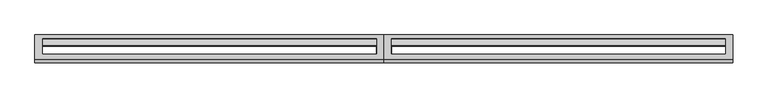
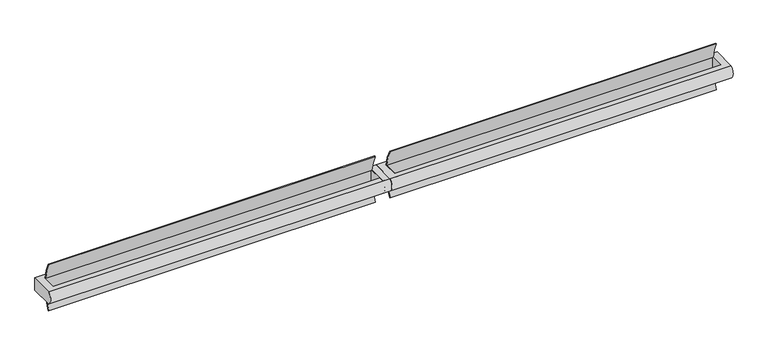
"""IFC4 building model written with IfcOpenShell, lengths in millimetres: light fixture geometry, soli continuum : soli continuum."""

from ifc_helpers import new_model, si_unit, point, frame, frame_2d, origin, place, context, project, spatial, polyline, circle_curve, trimmed, segment, composite_curve, outline, extrude, source, transform, mapped, element, save
from ifc_brep_helpers import plane_surface, cylinder_surface, advanced_brep


def light_fixture_3b4cde5a(model_context):
    return source(origin(), model_context, "Body", "SolidModel", [
        extrude(outline(composite_curve([segment(polyline([(13.643269, 1453.2258006), (16.4225311, 1454.7608339)]), True, "CONTINUOUS"), segment(trimmed(circle_curve(frame_2d((-135.8180328, 1370.6758006)), 173.9180328), [point((16.4225311, 1454.7608339))], [point((36.6740873, 1392.9008006))], False, "CARTESIAN"), True, "CONTINUOUS"), segment(polyline([(36.6740873, 1392.9008006), (33.4723468, 1392.9008006)]), True, "CONTINUOUS"), segment(trimmed(circle_curve(frame_2d((-135.8180328, 1370.6758006)), 170.7430328), [point((33.4723468, 1392.9008006))], [point((13.643269, 1453.2258006))], True, "CARTESIAN"), True, "CONTINUOUS")], self_intersect=False)), frame((55.1662262, 0.0, 0.0), z_axis=(1.0, 0.0, 0.0), x_axis=(0.0, 1.0, 0.0)), (0.0, 0.0, 1.0), 1117.6),
        extrude(outline(composite_curve([segment(polyline([(16.4225311, 1286.5907672), (13.643269, 1288.1258006)]), True, "CONTINUOUS"), segment(trimmed(circle_curve(frame_2d((-135.8180328, 1370.6758006)), 170.7430328), [point((13.643269, 1288.1258006))], [point((33.4723468, 1348.4508006))], True, "CARTESIAN"), True, "CONTINUOUS"), segment(polyline([(33.4723468, 1348.4508006), (36.6740873, 1348.4508006)]), True, "CONTINUOUS"), segment(trimmed(circle_curve(frame_2d((-135.8180328, 1370.6758006)), 173.9180328), [point((36.6740873, 1348.4508006))], [point((16.4225311, 1286.5907672))], False, "CARTESIAN"), True, "CONTINUOUS")], self_intersect=False)), frame((55.1662262, 0.0, 0.0), z_axis=(1.0, 0.0, 0.0), x_axis=(0.0, 1.0, 0.0)), (0.0, 0.0, 1.0), 1117.6),
        advanced_brep(
        [(1197.1075026, 50.8, 1348.4508006), (1197.1075026, 50.8, 1392.9008006), (1197.1075026, -30.48, 1392.9008006), (1197.1075026, -30.48, 1348.4508006), (28.7075026, 50.8, 1348.4508006), (28.7075026, -30.48, 1348.4508006), (28.7075026, -30.48, 1392.9008006), (28.7075026, 50.8, 1392.9008006), (55.1662262, 38.1, 1392.9008006), (1172.7662262, 38.1, 1392.9008006), (1172.7662262, -12.7, 1392.9008006), (55.1662262, -12.7, 1392.9008006), (1172.7662262, 38.1, 1348.4508006), (55.1662262, 38.1, 1348.4508006), (55.1662262, -12.7, 1348.4508006), (1172.7662262, -12.7, 1348.4508006)],
        [
            (0, 1),
            (1, 2),
            (2, 3, circle_curve(frame((1197.1075026, -17.383125, 1370.6758006), z_axis=(1.0, 0.0, 0.0), x_axis=(0.0, -1.0, 0.0)), 25.796875)),
            (3, 0),
            (4, 5),
            (5, 6, circle_curve(frame((28.7075026, -17.383125, 1370.6758006), z_axis=(-1.0, 0.0, 0.0), x_axis=(0.0, -1.0, 0.0)), 25.796875)),
            (6, 7),
            (7, 4),
            (0, 4),
            (7, 1),
            (6, 2),
            (8, 9),
            (9, 10),
            (10, 11),
            (11, 8),
            (5, 3),
            (12, 13),
            (13, 14),
            (14, 15),
            (15, 12),
            (8, 13),
            (12, 9),
            (11, 14),
            (10, 15),
        ],
        [
            plane_surface(frame((1197.1075026, 50.8, 1399.2508006), z_axis=(1.0, 0.0, 0.0), x_axis=(0.0, 0.0, 1.0))),
            plane_surface(frame((28.7075026, 50.8, 1399.2508006), z_axis=(-1.0, 0.0, 0.0), x_axis=(0.0, 0.0, -1.0))),
            plane_surface(frame((1197.1075026, 50.8, 1348.4508006), z_axis=(0.0, 1.0, 0.0), x_axis=(-1.0, 0.0, 0.0))),
            plane_surface(frame((1197.1075026, 50.8, 1392.9008006), z_axis=(0.0, 0.0, 1.0), x_axis=(-1.0, 0.0, 0.0))),
            cylinder_surface(frame((28.7075026, -17.383125, 1370.6758006), z_axis=(1.0, 0.0, 0.0), x_axis=(0.0, -1.0, 0.0)), 25.796875),
            plane_surface(frame((1197.1075026, -30.48, 1348.4508006), z_axis=(0.0, 0.0, -1.0), x_axis=(-1.0, 0.0, 0.0))),
            plane_surface(frame((1172.7662262, 38.1, 1392.9008006), z_axis=(0.0, -1.0, 0.0), x_axis=(0.0, 0.0, -1.0))),
            plane_surface(frame((55.1662262, 38.1, 1392.9008006), z_axis=(1.0, 0.0, 0.0), x_axis=(0.0, 0.0, -1.0))),
            plane_surface(frame((55.1662262, -12.7, 1392.9008006), z_axis=(0.0, 1.0, 0.0), x_axis=(0.0, 0.0, -1.0))),
            plane_surface(frame((1172.7662262, -12.7, 1392.9008006), z_axis=(-1.0, 0.0, 0.0), x_axis=(0.0, 0.0, -1.0))),
        ],
        [
            (0, [[1, 2, 3, 4]]),
            (1, [[5, 6, 7, 8]]),
            (2, [[-1, 9, -8, 10]]),
            (3, [[-2, -10, -7, 11], [12, 13, 14, 15]]),
            (4, [[-3, -11, -6, 16]]),
            (5, [[-4, -16, -5, -9], [17, 18, 19, 20]]),
            (6, [[21, -17, 22, -12]]),
            (7, [[-21, -15, 23, -18]]),
            (8, [[-23, -14, 24, -19]]),
            (9, [[-22, -20, -24, -13]]),
        ],
    ),
        extrude(outline(composite_curve([segment(polyline([(13.643269, 1453.2258006), (16.4225311, 1454.7608339)]), True, "CONTINUOUS"), segment(trimmed(circle_curve(frame_2d((-135.8180328, 1370.6758006)), 173.9180328), [point((16.4225311, 1454.7608339))], [point((36.6740873, 1392.9008006))], False, "CARTESIAN"), True, "CONTINUOUS"), segment(polyline([(36.6740873, 1392.9008006), (33.4723468, 1392.9008006)]), True, "CONTINUOUS"), segment(trimmed(circle_curve(frame_2d((-135.8180328, 1370.6758006)), 170.7430328), [point((33.4723468, 1392.9008006))], [point((13.643269, 1453.2258006))], True, "CARTESIAN"), True, "CONTINUOUS")], self_intersect=False)), frame((-1113.2337738, 0.0, 0.0), z_axis=(1.0, 0.0, 0.0), x_axis=(0.0, 1.0, 0.0)), (0.0, 0.0, 1.0), 1117.6),
        extrude(outline(composite_curve([segment(polyline([(16.4225311, 1286.5907672), (13.643269, 1288.1258006)]), True, "CONTINUOUS"), segment(trimmed(circle_curve(frame_2d((-135.8180328, 1370.6758006)), 170.7430328), [point((13.643269, 1288.1258006))], [point((33.4723468, 1348.4508006))], True, "CARTESIAN"), True, "CONTINUOUS"), segment(polyline([(33.4723468, 1348.4508006), (36.6740873, 1348.4508006)]), True, "CONTINUOUS"), segment(trimmed(circle_curve(frame_2d((-135.8180328, 1370.6758006)), 173.9180328), [point((36.6740873, 1348.4508006))], [point((16.4225311, 1286.5907672))], False, "CARTESIAN"), True, "CONTINUOUS")], self_intersect=False)), frame((-1113.2337738, 0.0, 0.0), z_axis=(1.0, 0.0, 0.0), x_axis=(0.0, 1.0, 0.0)), (0.0, 0.0, 1.0), 1117.6),
        advanced_brep(
        [(28.7075026, 50.8, 1348.4508006), (28.7075026, 50.8, 1392.9008006), (28.7075026, -30.48, 1392.9008006), (28.7075026, -30.48, 1348.4508006), (-1139.6924974, 50.8, 1348.4508006), (-1139.6924974, -30.48, 1348.4508006), (-1139.6924974, -30.48, 1392.9008006), (-1139.6924974, 50.8, 1392.9008006), (-1113.2337738, 38.1, 1392.9008006), (4.3662262, 38.1, 1392.9008006), (4.3662262, -12.7, 1392.9008006), (-1113.2337738, -12.7, 1392.9008006), (4.3662262, 38.1, 1348.4508006), (-1113.2337738, 38.1, 1348.4508006), (-1113.2337738, -12.7, 1348.4508006), (4.3662262, -12.7, 1348.4508006)],
        [
            (0, 1),
            (1, 2),
            (2, 3, circle_curve(frame((28.7075026, -17.383125, 1370.6758006), z_axis=(1.0, 0.0, 0.0), x_axis=(0.0, -1.0, 0.0)), 25.796875)),
            (3, 0),
            (4, 5),
            (5, 6, circle_curve(frame((-1139.6924974, -17.383125, 1370.6758006), z_axis=(-1.0, 0.0, 0.0), x_axis=(0.0, -1.0, 0.0)), 25.796875)),
            (6, 7),
            (7, 4),
            (0, 4),
            (7, 1),
            (6, 2),
            (8, 9),
            (9, 10),
            (10, 11),
            (11, 8),
            (5, 3),
            (12, 13),
            (13, 14),
            (14, 15),
            (15, 12),
            (8, 13),
            (12, 9),
            (11, 14),
            (10, 15),
        ],
        [
            plane_surface(frame((28.7075026, 50.8, 1399.2508006), z_axis=(1.0, 0.0, 0.0), x_axis=(0.0, 0.0, 1.0))),
            plane_surface(frame((-1139.6924974, 50.8, 1399.2508006), z_axis=(-1.0, 0.0, 0.0), x_axis=(0.0, 0.0, -1.0))),
            plane_surface(frame((28.7075026, 50.8, 1348.4508006), z_axis=(0.0, 1.0, 0.0), x_axis=(-1.0, 0.0, 0.0))),
            plane_surface(frame((28.7075026, 50.8, 1392.9008006), z_axis=(0.0, 0.0, 1.0), x_axis=(-1.0, 0.0, 0.0))),
            cylinder_surface(frame((-1139.6924974, -17.383125, 1370.6758006), z_axis=(1.0, 0.0, 0.0), x_axis=(0.0, -1.0, 0.0)), 25.796875),
            plane_surface(frame((28.7075026, -30.48, 1348.4508006), z_axis=(0.0, 0.0, -1.0), x_axis=(-1.0, 0.0, 0.0))),
            plane_surface(frame((4.3662262, 38.1, 1392.9008006), z_axis=(0.0, -1.0, 0.0), x_axis=(0.0, 0.0, -1.0))),
            plane_surface(frame((-1113.2337738, 38.1, 1392.9008006), z_axis=(1.0, 0.0, 0.0), x_axis=(0.0, 0.0, -1.0))),
            plane_surface(frame((-1113.2337738, -12.7, 1392.9008006), z_axis=(0.0, 1.0, 0.0), x_axis=(0.0, 0.0, -1.0))),
            plane_surface(frame((4.3662262, -12.7, 1392.9008006), z_axis=(-1.0, 0.0, 0.0), x_axis=(0.0, 0.0, -1.0))),
        ],
        [
            (0, [[1, 2, 3, 4]]),
            (1, [[5, 6, 7, 8]]),
            (2, [[-1, 9, -8, 10]]),
            (3, [[-2, -10, -7, 11], [12, 13, 14, 15]]),
            (4, [[-3, -11, -6, 16]]),
            (5, [[-4, -16, -5, -9], [17, 18, 19, 20]]),
            (6, [[21, -17, 22, -12]]),
            (7, [[-21, -15, 23, -18]]),
            (8, [[-23, -14, 24, -19]]),
            (9, [[-22, -20, -24, -13]]),
        ],
    ),
        extrude(outline(composite_curve([segment(polyline([(-30.48, 1392.9008006), (50.8, 1392.9008006), (50.8, 1348.4508006), (-30.48, 1348.4508006)]), True, "CONTINUOUS"), segment(trimmed(circle_curve(frame_2d((-17.4167527, 1370.6758006)), 25.7798187), [point((-30.48, 1348.4508006))], [point((-30.48, 1392.9008006))], False, "CARTESIAN"), True, "CONTINUOUS")], self_intersect=False)), frame((4.3662262, 0.0, 0.0), z_axis=(1.0, 0.0, 0.0), x_axis=(0.0, 1.0, 0.0)), (0.0, 0.0, 1.0), 50.8),
    ])


if __name__ == "__main__":
    model = new_model("IFC4")
    model_context = context("Model", 3, world=origin())
    ifc_project = project(units=[si_unit("LENGTHUNIT", "METRE", prefix="MILLI")], contexts=[model_context])
    site = spatial("IfcSite", under=ifc_project)
    building = spatial("IfcBuilding", under=site)
    placement = place(None, origin())
    light_fixture_shape = light_fixture_3b4cde5a(model_context)
    element("IfcLightFixture", 1, ObjectType="soli continuum : soli continuum", at=placement, inside=building, context=model_context, shape_type="MappedRepresentation", body=[
        mapped(light_fixture_shape, transform((0.0, 0.0, 0.0), x_axis=(1.0, 0.0, 0.0), y_axis=(0.0, 1.0, 0.0), z_axis=(0.0, 0.0, 1.0))),
    ])
    save(model, "model.ifc")
